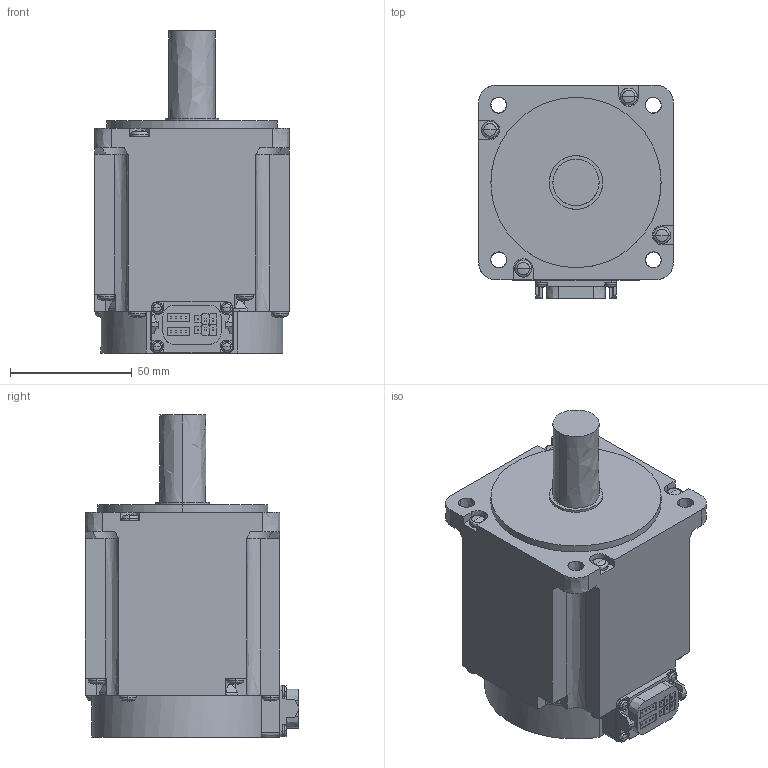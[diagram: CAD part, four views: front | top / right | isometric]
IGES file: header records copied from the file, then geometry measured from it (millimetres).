
Start section:  PTC IGES file: hk-kt7m3w_-_asm.igs
Global section: file name: hk-kt7m3w_-_asm.igs; native system: Creo Parametric by PTC Inc.; preprocessor: 2016380; author: XE90682; organization: Unknown; date: 20190115.181213; units: millimetre
Bounding box: 80 x 87.65 x 132.5 mm (x, y, z)
Volume: 533974 mm3; surface area: 45224.1 mm2
Topology: 1 solids, 1 shells, 401 faces, 1043 edges, 655 vertices
Faces by surface type: bspline 401
